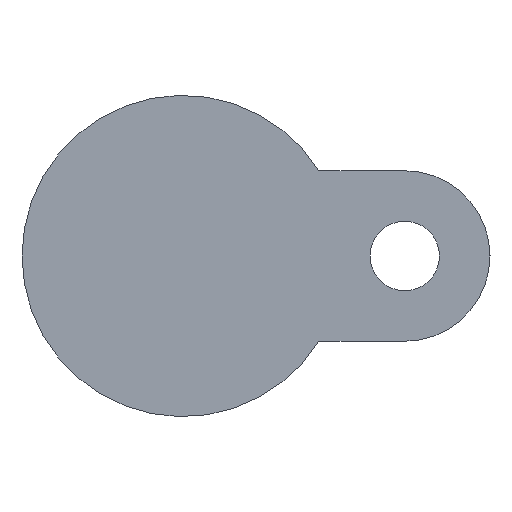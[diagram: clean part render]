
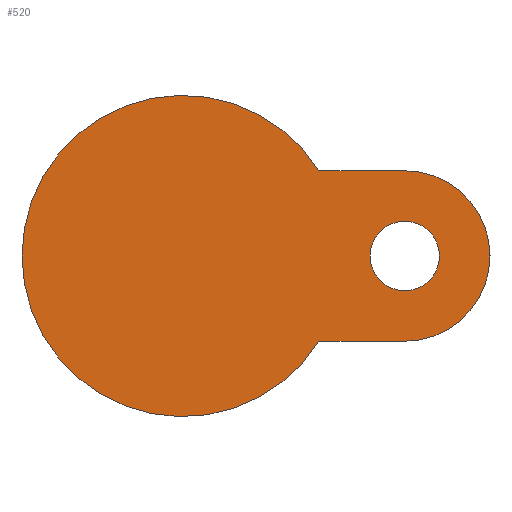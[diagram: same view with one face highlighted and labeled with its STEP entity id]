
A CAD part, front view. The second image highlights one B-rep face of the part: STEP entity #520.
In plain terms, the highlighted planar face has unit normal (0, -1, 0).
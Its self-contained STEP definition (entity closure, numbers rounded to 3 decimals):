
#38 = EDGE_LOOP ( 'NONE', ( #201, #488 ) ) ;
#45 = EDGE_CURVE ( 'NONE', #1188, #446, #292, .T. ) ;
#54 = DIRECTION ( 'NONE',  ( 1., 0., 0. ) ) ;
#74 = EDGE_LOOP ( 'NONE', ( #831, #125, #1294, #1420 ) ) ;
#79 = CIRCLE ( 'NONE', #172, 21.5 ) ;
#88 = CARTESIAN_POINT ( 'NONE',  ( 47.25, -23., 0. ) ) ;
#125 = ORIENTED_EDGE ( 'NONE', *, *, #1215, .F. ) ;
#144 = VERTEX_POINT ( 'NONE', #362 ) ;
#148 = AXIS2_PLACEMENT_3D ( 'NONE', #791, #1266, #1283 ) ;
#172 = AXIS2_PLACEMENT_3D ( 'NONE', #204, #817, #1291 ) ;
#201 = ORIENTED_EDGE ( 'NONE', *, *, #45, .T. ) ;
#204 = CARTESIAN_POINT ( 'NONE',  ( 56., -23., 0. ) ) ;
#220 = VERTEX_POINT ( 'NONE', #382 ) ;
#247 = VERTEX_POINT ( 'NONE', #1063 ) ;
#273 = EDGE_CURVE ( 'NONE', #220, #247, #79, .T. ) ;
#285 = CARTESIAN_POINT ( 'NONE',  ( 0., -23., 0. ) ) ;
#292 = CIRCLE ( 'NONE', #1122, 8.75 ) ;
#313 = DIRECTION ( 'NONE',  ( -1., 0., 0. ) ) ;
#326 = CIRCLE ( 'NONE', #460, 40.5 ) ;
#362 = CARTESIAN_POINT ( 'NONE',  ( 34.322, -23., -21.5 ) ) ;
#382 = CARTESIAN_POINT ( 'NONE',  ( 56., -23., 21.5 ) ) ;
#431 = VECTOR ( 'NONE', #313, 1000. ) ;
#446 = VERTEX_POINT ( 'NONE', #1234 ) ;
#460 = AXIS2_PLACEMENT_3D ( 'NONE', #285, #1367, #777 ) ;
#482 = VERTEX_POINT ( 'NONE', #1289 ) ;
#488 = ORIENTED_EDGE ( 'NONE', *, *, #985, .T. ) ;
#520 = ADVANCED_FACE ( 'NONE', ( #683, #1274 ), #1159, .T. ) ;
#650 = DIRECTION ( 'NONE',  ( -1., 0., 0. ) ) ;
#683 = FACE_BOUND ( 'NONE', #38, .T. ) ;
#703 = DIRECTION ( 'NONE',  ( 0., 1., 0. ) ) ;
#766 = CARTESIAN_POINT ( 'NONE',  ( 30.5, -23., 21.5 ) ) ;
#768 = EDGE_CURVE ( 'NONE', #482, #220, #1477, .T. ) ;
#777 = DIRECTION ( 'NONE',  ( 1., 0., 0. ) ) ;
#784 = CARTESIAN_POINT ( 'NONE',  ( 30.5, -23., -21.5 ) ) ;
#791 = CARTESIAN_POINT ( 'NONE',  ( 40.5, -23., 0. ) ) ;
#817 = DIRECTION ( 'NONE',  ( 0., 1., 0. ) ) ;
#826 = AXIS2_PLACEMENT_3D ( 'NONE', #1292, #703, #1179 ) ;
#831 = ORIENTED_EDGE ( 'NONE', *, *, #1130, .T. ) ;
#985 = EDGE_CURVE ( 'NONE', #446, #1188, #1276, .T. ) ;
#1063 = CARTESIAN_POINT ( 'NONE',  ( 56., -23., -21.5 ) ) ;
#1122 = AXIS2_PLACEMENT_3D ( 'NONE', #1256, #1500, #650 ) ;
#1130 = EDGE_CURVE ( 'NONE', #482, #144, #326, .T. ) ;
#1159 = PLANE ( 'NONE',  #148 ) ;
#1179 = DIRECTION ( 'NONE',  ( -1., 0., 0. ) ) ;
#1188 = VERTEX_POINT ( 'NONE', #88 ) ;
#1215 = EDGE_CURVE ( 'NONE', #247, #144, #1385, .T. ) ;
#1234 = CARTESIAN_POINT ( 'NONE',  ( 64.75, -23., 0. ) ) ;
#1256 = CARTESIAN_POINT ( 'NONE',  ( 56., -23., 0. ) ) ;
#1266 = DIRECTION ( 'NONE',  ( 0., -1., 0. ) ) ;
#1274 = FACE_OUTER_BOUND ( 'NONE', #74, .T. ) ;
#1276 = CIRCLE ( 'NONE', #826, 8.75 ) ;
#1283 = DIRECTION ( 'NONE',  ( 1., 0., 0. ) ) ;
#1289 = CARTESIAN_POINT ( 'NONE',  ( 34.322, -23., 21.5 ) ) ;
#1291 = DIRECTION ( 'NONE',  ( 1., 0., 0. ) ) ;
#1292 = CARTESIAN_POINT ( 'NONE',  ( 56., -23., 0. ) ) ;
#1294 = ORIENTED_EDGE ( 'NONE', *, *, #273, .F. ) ;
#1367 = DIRECTION ( 'NONE',  ( 0., -1., 0. ) ) ;
#1385 = LINE ( 'NONE', #784, #431 ) ;
#1420 = ORIENTED_EDGE ( 'NONE', *, *, #768, .F. ) ;
#1477 = LINE ( 'NONE', #766, #1497 ) ;
#1497 = VECTOR ( 'NONE', #54, 1000. ) ;
#1500 = DIRECTION ( 'NONE',  ( 0., 1., 0. ) ) ;
